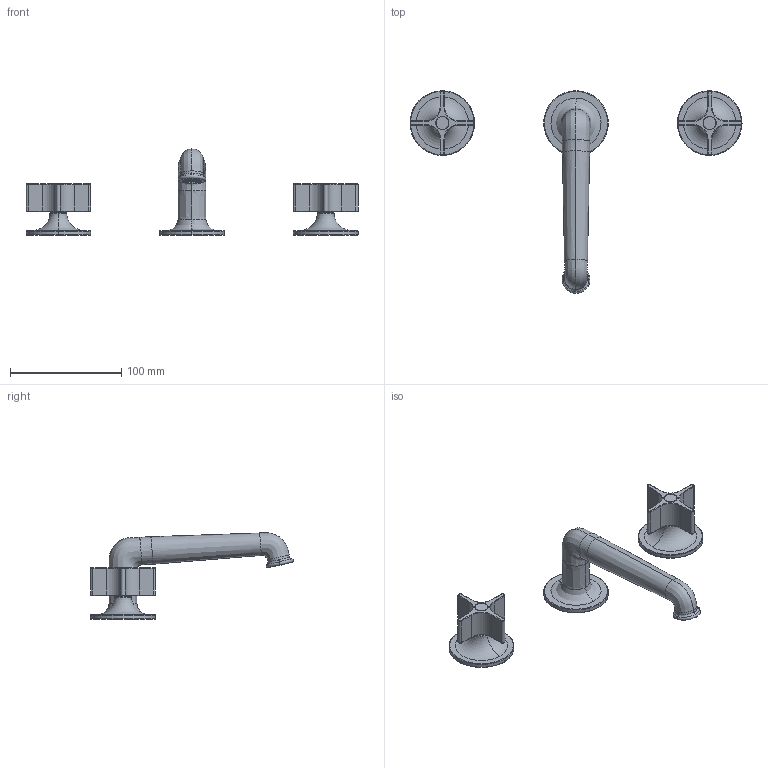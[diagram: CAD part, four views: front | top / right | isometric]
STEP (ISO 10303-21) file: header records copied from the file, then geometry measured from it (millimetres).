
FILE_DESCRIPTION((''),'2;1');
FILE_NAME('76000J604W000000_SW0001','2025-03-17T15:28:16',('cristian.dorz'),(''),'CREO PARAMETRIC BY PTC INC, 2022281','CREO PARAMETRIC BY PTC INC, 2022281','');
FILE_SCHEMA(('AUTOMOTIVE_DESIGN { 1 0 10303 214 1 1 1 1 }'));
Length unit declared in the file: millimetre
Products named in the file (1): 76000J604W000000_SW0001
Bounding box: 298 x 181.87 x 77.33 mm (x, y, z)
Volume: 163380.4 mm3; surface area: 46841.2 mm2
Topology: 3 solids, 8 shells, 630 faces, 1549 edges, 996 vertices
Faces by surface type: plane 444, cylinder 88, torus 60, bspline 30, extrusion 4, sphere 2, cone 2
Entity records: 29125 total; most frequent: CARTESIAN_POINT 9361, DIRECTION 3321, ORIENTED_EDGE 3098, EDGE_CURVE 1549, AXIS2_PLACEMENT_3D 1230, VERTEX_POINT 996, VECTOR 858, LINE 854
